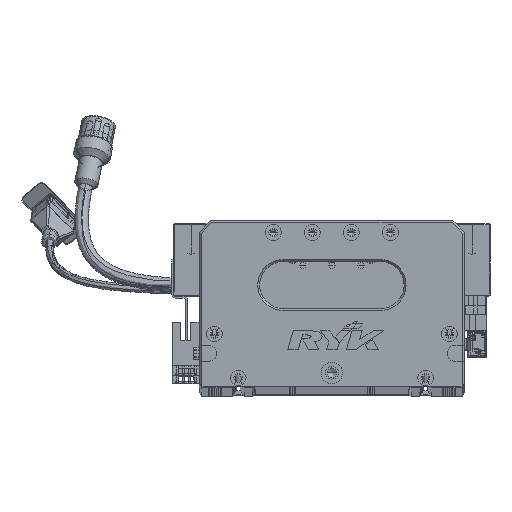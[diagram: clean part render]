
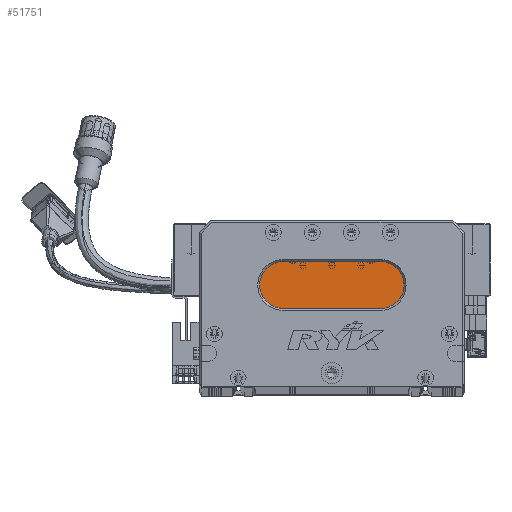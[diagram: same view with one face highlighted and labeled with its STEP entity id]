
A CAD part, top view. The second image highlights one B-rep face of the part: STEP entity #51751.
In plain terms, the highlighted planar face has unit normal (0, 0, 1) as drawn and (0, 0, -1) by its records, which use the part's own axes.
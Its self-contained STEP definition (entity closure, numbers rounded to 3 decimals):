
#2896 = ORIENTED_EDGE ( 'NONE', *, *, #53182, .T. ) ;
#4712 = EDGE_CURVE ( 'NONE', #83592, #83798, #38745, .T. ) ;
#6191 = EDGE_LOOP ( 'NONE', ( #2896, #115337, #74954, #58878, #38722 ) ) ;
#7126 = DIRECTION ( 'NONE',  ( 0., 0., -1. ) ) ;
#7379 = CIRCLE ( 'NONE', #60643, 12. ) ;
#8021 = DIRECTION ( 'NONE',  ( -1., 0., 0. ) ) ;
#8729 = AXIS2_PLACEMENT_3D ( 'NONE', #17968, #80963, #79692 ) ;
#9808 = LINE ( 'NONE', #127073, #76666 ) ;
#17968 = CARTESIAN_POINT ( 'NONE',  ( 93., 52., 13. ) ) ;
#21548 = CIRCLE ( 'NONE', #8729, 12. ) ;
#22304 = DIRECTION ( 'NONE',  ( 1., 0., 0. ) ) ;
#26171 = CARTESIAN_POINT ( 'NONE',  ( 93., 52., 13. ) ) ;
#33521 = CARTESIAN_POINT ( 'NONE',  ( 93., 64., 13. ) ) ;
#38722 = ORIENTED_EDGE ( 'NONE', *, *, #40304, .T. ) ;
#38745 = CIRCLE ( 'NONE', #81862, 12. ) ;
#40304 = EDGE_CURVE ( 'NONE', #83798, #53341, #63908, .T. ) ;
#43639 = CARTESIAN_POINT ( 'NONE',  ( 43., 52., 13. ) ) ;
#49288 = EDGE_CURVE ( 'NONE', #100729, #55516, #9808, .T. ) ;
#51751 = ADVANCED_FACE ( 'NONE', ( #88680 ), #85802, .T. ) ;
#53182 = EDGE_CURVE ( 'NONE', #53341, #100729, #21548, .T. ) ;
#53341 = VERTEX_POINT ( 'NONE', #33521 ) ;
#55516 = VERTEX_POINT ( 'NONE', #81503 ) ;
#58878 = ORIENTED_EDGE ( 'NONE', *, *, #4712, .T. ) ;
#60484 = CARTESIAN_POINT ( 'NONE',  ( 43., 52., 13. ) ) ;
#60643 = AXIS2_PLACEMENT_3D ( 'NONE', #60484, #80473, #100486 ) ;
#63908 = LINE ( 'NONE', #91468, #91873 ) ;
#74954 = ORIENTED_EDGE ( 'NONE', *, *, #95812, .T. ) ;
#76666 = VECTOR ( 'NONE', #8021, 1000. ) ;
#79692 = DIRECTION ( 'NONE',  ( -1., 0., 0. ) ) ;
#80473 = DIRECTION ( 'NONE',  ( 0., 0., -1. ) ) ;
#80963 = DIRECTION ( 'NONE',  ( 0., 0., -1. ) ) ;
#81503 = CARTESIAN_POINT ( 'NONE',  ( 43., 40., 13. ) ) ;
#81737 = CARTESIAN_POINT ( 'NONE',  ( 43., 64., 13. ) ) ;
#81862 = AXIS2_PLACEMENT_3D ( 'NONE', #43639, #84022, #123107 ) ;
#83592 = VERTEX_POINT ( 'NONE', #87048 ) ;
#83798 = VERTEX_POINT ( 'NONE', #81737 ) ;
#84022 = DIRECTION ( 'NONE',  ( 0., 0., -1. ) ) ;
#85802 = PLANE ( 'NONE',  #128452 ) ;
#86236 = DIRECTION ( 'NONE',  ( -1., 0., 0. ) ) ;
#87048 = CARTESIAN_POINT ( 'NONE',  ( 31., 52., 13. ) ) ;
#88680 = FACE_OUTER_BOUND ( 'NONE', #6191, .T. ) ;
#91468 = CARTESIAN_POINT ( 'NONE',  ( 93., 64., 13. ) ) ;
#91873 = VECTOR ( 'NONE', #22304, 1000. ) ;
#95812 = EDGE_CURVE ( 'NONE', #55516, #83592, #7379, .T. ) ;
#100486 = DIRECTION ( 'NONE',  ( -1., 0., 0. ) ) ;
#100729 = VERTEX_POINT ( 'NONE', #125804 ) ;
#115337 = ORIENTED_EDGE ( 'NONE', *, *, #49288, .T. ) ;
#123107 = DIRECTION ( 'NONE',  ( -1., 0., 0. ) ) ;
#125804 = CARTESIAN_POINT ( 'NONE',  ( 93., 40., 13. ) ) ;
#127073 = CARTESIAN_POINT ( 'NONE',  ( 93., 40., 13. ) ) ;
#128452 = AXIS2_PLACEMENT_3D ( 'NONE', #26171, #7126, #86236 ) ;
